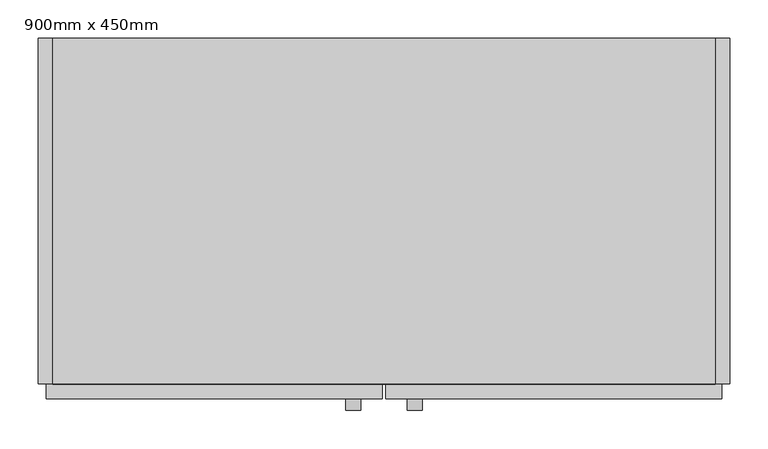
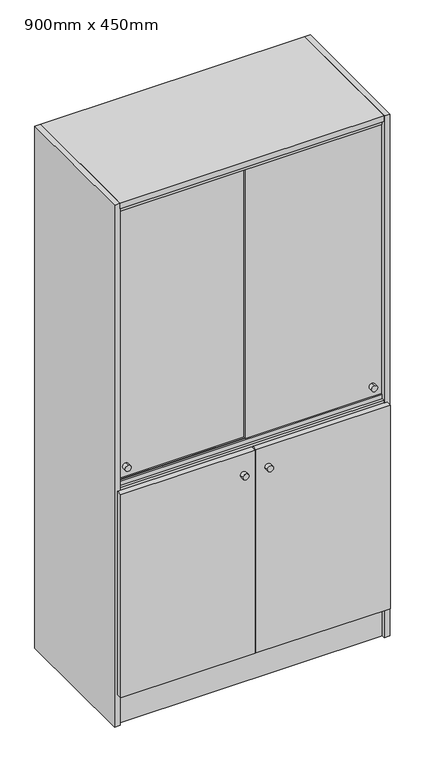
"""IFC4 building model written with IfcOpenShell, lengths in millimetres: furniture geometry, Bibliothèque armoire - Portes vitrées : 900mm x 450mm."""

from ifc_helpers import new_model, si_unit, point, frame, frame_2d, origin, origin_with_axes, place, context, project, spatial, polyline, circle_curve, trimmed, segment, composite_curve, outline, extrude, source, transform, mapped, element, save


def furniture_900mm_x_450mm_b3238755(model_context):
    return source(origin(), model_context, "Body", "SweptSolid", [
        extrude(outline(polyline([(531.0, 275.0), (531.0, -175.0), (-331.0, -175.0), (-331.0, 275.0), (531.0, 275.0)])), frame((0.0, 0.0, 1781.0), z_axis=(0.0, 0.0, 1.0), x_axis=(1.0, 0.0, 0.0)), (0.0, 0.0, 1.0), 19.0),
        extrude(outline(polyline([(-331.0, -175.0), (-350.0, -175.0), (-350.0, 275.0), (-331.0, 275.0), (-331.0, -175.0)])), origin_with_axes(), (0.0, 0.0, 1.0), 1800.0),
        extrude(outline(polyline([(550.0, 275.0), (550.0, -175.0), (531.0, -175.0), (531.0, 275.0), (550.0, 275.0)])), origin_with_axes(), (0.0, 0.0, 1.0), 1800.0),
        extrude(outline(polyline([(531.0, -142.0), (-331.0, -142.0), (-331.0, 265.0), (531.0, 265.0), (531.0, -142.0)])), frame((0.0, 0.0, 1466.6666667), z_axis=(0.0, 0.0, 1.0), x_axis=(1.0, 0.0, 0.0)), (0.0, 0.0, 1.0), 19.0),
        extrude(outline(polyline([(531.0, -142.0), (-331.0, -142.0), (-331.0, 265.0), (531.0, 265.0), (531.0, -142.0)])), frame((0.0, 0.0, 1133.3333333), z_axis=(0.0, 0.0, 1.0), x_axis=(1.0, 0.0, 0.0)), (0.0, 0.0, 1.0), 19.0),
        extrude(outline(polyline([(115.0, -147.0), (115.0, -151.0), (-331.0, -151.0), (-331.0, -147.0), (115.0, -147.0)])), frame((0.0, 0.0, 824.0), z_axis=(0.0, 0.0, 1.0), x_axis=(1.0, 0.0, 0.0)), (0.0, 0.0, 1.0), 952.0),
        extrude(outline(polyline([(531.0, -156.0), (531.0, -160.0), (85.0, -160.0), (85.0, -156.0), (531.0, -156.0)])), frame((0.0, 0.0, 824.0), z_axis=(0.0, 0.0, 1.0), x_axis=(1.0, 0.0, 0.0)), (0.0, 0.0, 1.0), 952.0),
        extrude(outline(polyline([(-165.0, 1781.0), (-142.0, 1781.0), (-142.0, 1766.0), (-147.0, 1766.0), (-147.0, 1776.0), (-151.0, 1776.0), (-151.0, 1766.0), (-156.0, 1766.0), (-156.0, 1776.0), (-160.0, 1776.0), (-160.0, 1766.0), (-165.0, 1766.0), (-165.0, 1781.0)])), frame((-331.0, 0.0, 0.0), z_axis=(1.0, 0.0, 0.0), x_axis=(0.0, 1.0, 0.0)), (0.0, 0.0, 1.0), 862.0),
        extrude(outline(polyline([(-165.0, 819.0), (-165.0, 834.0), (-160.0, 834.0), (-160.0, 824.0), (-156.0, 824.0), (-156.0, 834.0), (-151.0, 834.0), (-151.0, 824.0), (-147.0, 824.0), (-147.0, 834.0), (-142.0, 834.0), (-142.0, 819.0), (-165.0, 819.0)])), frame((-331.0, 0.0, 0.0), z_axis=(1.0, 0.0, 0.0), x_axis=(0.0, 1.0, 0.0)), (0.0, 0.0, 1.0), 862.0),
        extrude(outline(polyline([(98.0, -194.0), (-340.0, -194.0), (-340.0, -175.0), (98.0, -175.0), (98.0, -194.0)])), frame((0.0, 0.0, 109.0), z_axis=(0.0, 0.0, 1.0), x_axis=(1.0, 0.0, 0.0)), (0.0, 0.0, 1.0), 701.0),
        extrude(outline(polyline([(540.0, -194.0), (102.0, -194.0), (102.0, -175.0), (540.0, -175.0), (540.0, -194.0)])), frame((0.0, 0.0, 109.0), z_axis=(0.0, 0.0, 1.0), x_axis=(1.0, 0.0, 0.0)), (0.0, 0.0, 1.0), 701.0),
        extrude(outline(polyline([(531.0, -175.0), (-331.0, -175.0), (-331.0, 265.0), (531.0, 265.0), (531.0, -175.0)])), frame((0.0, 0.0, 800.0), z_axis=(0.0, 0.0, 1.0), x_axis=(1.0, 0.0, 0.0)), (0.0, 0.0, 1.0), 19.0),
        extrude(outline(polyline([(531.0, -175.0), (-331.0, -175.0), (-331.0, 265.0), (531.0, 265.0), (531.0, -175.0)])), frame((0.0, 0.0, 100.0), z_axis=(0.0, 0.0, 1.0), x_axis=(1.0, 0.0, 0.0)), (0.0, 0.0, 1.0), 19.0),
        extrude(outline(polyline([(531.0, 265.0), (-331.0, 265.0), (-331.0, 275.0), (531.0, 275.0), (531.0, 265.0)])), origin_with_axes(), (0.0, 0.0, 1.0), 1781.0),
        extrude(outline(polyline([(531.0, -165.0), (-331.0, -165.0), (-331.0, -146.0), (531.0, -146.0), (531.0, -165.0)])), origin_with_axes(), (0.0, 0.0, 1.0), 100.0),
        extrude(outline(composite_curve([segment(trimmed(circle_curve(frame_2d((870.0, 500.0)), 10.0), [point((860.0, 500.0))], [point((880.0, 500.0))], False, "CARTESIAN"), True, "CONTINUOUS"), segment(trimmed(circle_curve(frame_2d((870.0, 500.0)), 10.0), [point((880.0, 500.0))], [point((860.0, 500.0))], False, "CARTESIAN"), True, "CONTINUOUS")], self_intersect=False)), frame((0.0, -175.0, 0.0), z_axis=(0.0, 1.0, 0.0), x_axis=(0.0, 0.0, 1.0)), (0.0, 0.0, 1.0), 15.0),
        extrude(outline(composite_curve([segment(trimmed(circle_curve(frame_2d((870.0, -300.0)), 10.0), [point((880.0, -300.0))], [point((860.0, -300.0))], False, "CARTESIAN"), True, "CONTINUOUS"), segment(trimmed(circle_curve(frame_2d((870.0, -300.0)), 10.0), [point((860.0, -300.0))], [point((880.0, -300.0))], False, "CARTESIAN"), True, "CONTINUOUS")], self_intersect=False)), frame((0.0, -166.0, 0.0), z_axis=(0.0, 1.0, 0.0), x_axis=(0.0, 0.0, 1.0)), (0.0, 0.0, 1.0), 15.0),
        extrude(outline(composite_curve([segment(trimmed(circle_curve(frame_2d((740.0, 60.0)), 10.0), [point((740.0, 50.0))], [point((740.0, 70.0))], False, "CARTESIAN"), True, "CONTINUOUS"), segment(trimmed(circle_curve(frame_2d((740.0, 60.0)), 10.0), [point((740.0, 70.0))], [point((740.0, 50.0))], False, "CARTESIAN"), True, "CONTINUOUS")], self_intersect=False)), frame((0.0, -209.0, 0.0), z_axis=(0.0, 1.0, 0.0), x_axis=(0.0, 0.0, 1.0)), (0.0, 0.0, 1.0), 15.0),
        extrude(outline(composite_curve([segment(trimmed(circle_curve(frame_2d((740.0, 140.0)), 10.0), [point((740.0, 130.0))], [point((740.0, 150.0))], False, "CARTESIAN"), True, "CONTINUOUS"), segment(trimmed(circle_curve(frame_2d((740.0, 140.0)), 10.0), [point((740.0, 150.0))], [point((740.0, 130.0))], False, "CARTESIAN"), True, "CONTINUOUS")], self_intersect=False)), frame((0.0, -209.0, 0.0), z_axis=(0.0, 1.0, 0.0), x_axis=(0.0, 0.0, 1.0)), (0.0, 0.0, 1.0), 15.0),
    ])


if __name__ == "__main__":
    model = new_model("IFC4")
    model_context = context("Model", 3, world=origin())
    ifc_project = project(units=[si_unit("LENGTHUNIT", "METRE", prefix="MILLI")], contexts=[model_context])
    site = spatial("IfcSite", under=ifc_project)
    building = spatial("IfcBuilding", under=site)
    placement = place(None, origin())
    furniture_900mm_x_450mm_shape = furniture_900mm_x_450mm_b3238755(model_context)
    element("IfcFurniture", 1, ObjectType="Bibliothèque armoire - Portes vitrées : 900mm x 450mm", at=placement, inside=building, context=model_context, shape_type="MappedRepresentation", body=[
        mapped(furniture_900mm_x_450mm_shape, transform((0.0, 0.0, 0.0), x_axis=(1.0, 0.0, 0.0), y_axis=(0.0, 1.0, 0.0), z_axis=(0.0, 0.0, 1.0))),
    ])
    save(model, "model.ifc")
